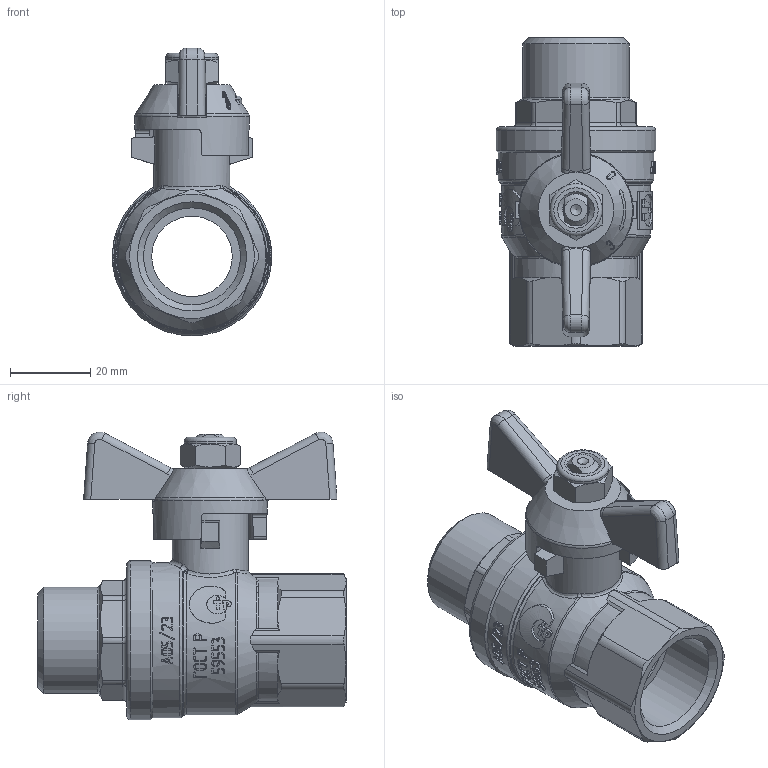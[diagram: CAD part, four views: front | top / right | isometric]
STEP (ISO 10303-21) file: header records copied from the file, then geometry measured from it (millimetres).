
FILE_DESCRIPTION(('STEP AP203'), '1');
FILE_NAME('VT.418.N.05', '2026-04-29T12:22:45', ('User'), ('Vesta'), 'C3D Converter', 'C3D Toolkit', '');
FILE_SCHEMA(('CONFIG_CONTROL_DESIGN'));
Length unit declared in the file: millimetre
Products named in the file (1): ВР.491816.003.000 СБ
Bounding box: 39.6 x 76.6 x 71.6 mm (x, y, z)
Volume: 53553.3 mm3; surface area: 20172.2 mm2
Topology: 1 solids, 1 shells, 1157 faces, 3210 edges, 2105 vertices
Faces by surface type: extrusion 550, plane 383, cylinder 118, cone 52, torus 30, bspline 24
Full cylindrical faces by diameter (mm): 0.816 x1, 4 x1, 13 x1, 19 x1, 20 x3, 20.5 x1, 21 x2, 24.118 x1, 26.441 x1, 28.5 x1, 38.6 x1, 39.6 x1
Entity records: 54931 total; most frequent: CARTESIAN_POINT 28336, ORIENTED_EDGE 6342, DIRECTION 3794, EDGE_CURVE 3171, VERTEX_POINT 2104, B_SPLINE_CURVE_WITH_KNOTS 1939, VECTOR 1758, EDGE_LOOP 1251
